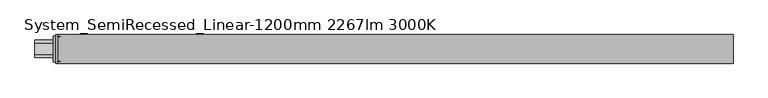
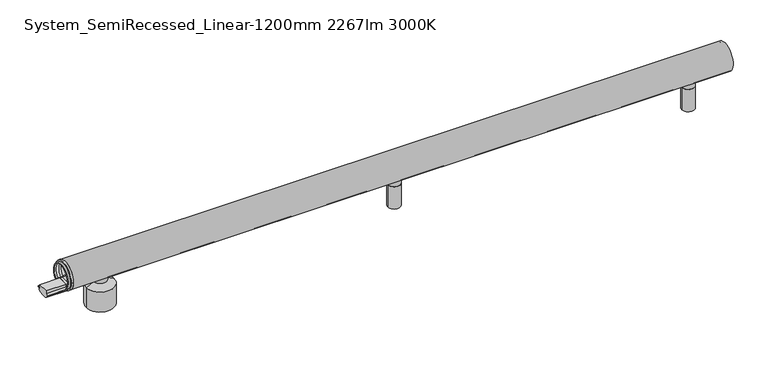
"""IFC4 building model written with IfcOpenShell, lengths in millimetres: light fixture geometry, ARTEMIDE-AoL-System-Linear_WallCeiling_US : System_SemiRecessed_Linear-1200mm 2267lm 3000K."""

from ifc_helpers import new_model, si_unit, point, frame, frame_2d, origin, place, context, project, spatial, polyline, circle_curve, trimmed, segment, composite_curve, outline, extrude, source, transform, mapped, element, save
from ifc_brep_helpers import plane_surface, cylinder_surface, revolved_surface, advanced_brep


def system_semirecessed_linear_1200mm_2267lm_3000k_a6b309f1(model_context):
    return source(origin(), model_context, "Body", "SolidModel", [
        advanced_brep(
        [(-2.0, 25.0245983, 74.9754017), (-2.0, -25.0245983, 74.9754017), (-2.0, -9.5062575, 60.6916114), (-2.0, -9.5062575, 64.3781516), (-2.0, 9.5062575, 64.3781516), (-2.0, 9.5062575, 60.6916114), (-2.0, 15.4273739, 60.6916114), (-2.0, 17.2867732, 60.6916114), (-2.0, -17.2867732, 60.6916114), (-2.0, -15.4273739, 60.6916114), (2.0, 25.0245983, 74.9754017), (2.0, -25.0245983, 74.9754017), (2.0, -9.5062575, 60.6916114), (2.0, -15.4273739, 60.6916114), (2.0, -17.2867732, 60.6916114), (2.0, 17.2867732, 60.6916114), (2.0, 15.4273739, 60.6916114), (2.0, 9.5062575, 60.6916114), (2.0, 9.5062575, 64.3781516), (2.0, -9.5062575, 64.3781516), (-6.0, -15.4273739, 60.6916114), (-6.0, -17.2867732, 60.6916114), (-6.0, 17.2867732, 60.6916114), (-6.0, 15.4273739, 60.6916114), (6.0, -15.4273739, 60.6916114), (6.0, 15.4273739, 60.6916114), (6.0, 17.2867732, 60.6916114), (6.0, -17.2867732, 60.6916114)],
        [
            (0, 1, circle_curve(frame((-2.0, 0.0, 74.9754017), z_axis=(-1.0, 0.0, 0.0), x_axis=(0.0, -1.0, 0.0)), 25.0245983)),
            (1, 0, circle_curve(frame((-2.0, 0.0, 74.9754017), z_axis=(-1.0, 0.0, 0.0), x_axis=(0.0, -1.0, 0.0)), 25.0245983)),
            (2, 3),
            (3, 4),
            (4, 5),
            (5, 6),
            (6, 7),
            (7, 8, circle_curve(frame((-2.0, 0.0, 74.9754017), z_axis=(1.0, 0.0, 0.0), x_axis=(0.0, -1.0, 0.0)), 22.4245221)),
            (8, 9),
            (9, 2),
            (10, 11, circle_curve(frame((2.0, 0.0, 74.9754017), z_axis=(1.0, 0.0, 0.0), x_axis=(0.0, -1.0, 0.0)), 25.0245983)),
            (11, 10, circle_curve(frame((2.0, 0.0, 74.9754017), z_axis=(1.0, 0.0, 0.0), x_axis=(0.0, -1.0, 0.0)), 25.0245983)),
            (12, 13),
            (13, 14),
            (14, 15, circle_curve(frame((2.0, 0.0, 74.9754017), z_axis=(-1.0, 0.0, 0.0), x_axis=(0.0, -1.0, 0.0)), 22.4245221)),
            (15, 16),
            (16, 17),
            (17, 18),
            (18, 19),
            (19, 12),
            (5, 17),
            (16, 6),
            (9, 13),
            (12, 2),
            (19, 3),
            (0, 10),
            (11, 1),
            (16, 13, circle_curve(frame((2.0, 0.0, 74.9754017), z_axis=(1.0, 0.0, 0.0), x_axis=(0.0, -1.0, 0.0)), 21.0245221)),
            (9, 6, circle_curve(frame((-2.0, 0.0, 74.9754017), z_axis=(-1.0, 0.0, 0.0), x_axis=(0.0, -1.0, 0.0)), 21.0245221)),
            (20, 21),
            (21, 22, circle_curve(frame((-6.0, 0.0, 74.9754017), z_axis=(-1.0, 0.0, 0.0), x_axis=(0.0, -1.0, 0.0)), 22.4245221)),
            (22, 23),
            (23, 20, circle_curve(frame((-6.0, 0.0, 74.9754017), z_axis=(1.0, 0.0, 0.0), x_axis=(0.0, -1.0, 0.0)), 21.0245221)),
            (24, 25, circle_curve(frame((6.0, 0.0, 74.9754017), z_axis=(-1.0, 0.0, 0.0), x_axis=(0.0, -1.0, 0.0)), 21.0245221)),
            (25, 26),
            (26, 27, circle_curve(frame((6.0, 0.0, 74.9754017), z_axis=(1.0, 0.0, 0.0), x_axis=(0.0, -1.0, 0.0)), 22.4245221)),
            (27, 24),
            (23, 6),
            (9, 20),
            (24, 13),
            (16, 25),
            (8, 21),
            (27, 14),
            (7, 22),
            (26, 15),
            (18, 4),
        ],
        [
            plane_surface(frame((-2.0, 0.0, 74.9754017), z_axis=(-1.0, 0.0, 0.0), x_axis=(0.0, 0.0, -1.0))),
            plane_surface(frame((2.0, 0.0, 74.9754017), z_axis=(1.0, 0.0, 0.0), x_axis=(0.0, 0.0, -1.0))),
            plane_surface(frame((-2.0, 9.5062575, 60.6916114), z_axis=(0.0, 0.0, 1.0), x_axis=(1.0, 0.0, 0.0))),
            plane_surface(frame((-2.0, -15.4273739, 60.6916114), z_axis=(0.0, 0.0, 1.0), x_axis=(1.0, 0.0, 0.0))),
            plane_surface(frame((-2.0, -9.5062575, 60.6916114), z_axis=(0.0, -1.0, 0.0), x_axis=(1.0, 0.0, 0.0))),
            cylinder_surface(frame((-2.0, 0.0, 74.9754017), z_axis=(-1.0, 0.0, 0.0), x_axis=(0.0, -1.0, 0.0)), 25.0245983),
            revolved_surface(polyline([(2.0, -21.0245221, 74.9754017), (-2.0, -21.0245221, 74.9754017)]), (-2.0, 0.0, 74.9754017), (1.0, 0.0, 0.0)),
            plane_surface(frame((-6.0, 0.0, 74.9754017), z_axis=(-1.0, 0.0, 0.0), x_axis=(0.0, 0.0, -1.0))),
            plane_surface(frame((6.0, 0.0, 74.9754017), z_axis=(1.0, 0.0, 0.0), x_axis=(0.0, 0.0, -1.0))),
            revolved_surface(polyline([(-2.0, -21.0245221, 74.9754017), (-6.0, -21.0245221, 74.9754017)]), (-6.0, 0.0, 74.9754017), (1.0, 0.0, 0.0)),
            revolved_surface(polyline([(6.0, -21.0245221, 74.9754017), (2.0, -21.0245221, 74.9754017)]), (-6.0, 0.0, 74.9754017), (1.0, 0.0, 0.0)),
            plane_surface(frame((-6.0, -15.4273739, 60.6916114), z_axis=(0.0, 0.0, -1.0), x_axis=(1.0, 0.0, 0.0))),
            cylinder_surface(frame((-6.0, 0.0, 74.9754017), z_axis=(-1.0, 0.0, 0.0), x_axis=(0.0, -1.0, 0.0)), 22.4245221),
            plane_surface(frame((-6.0, 17.2867732, 60.6916114), z_axis=(0.0, 0.0, -1.0), x_axis=(1.0, 0.0, 0.0))),
            plane_surface(frame((-2.0, -9.5062575, 64.3781516), z_axis=(0.0, 0.0, 1.0), x_axis=(1.0, 0.0, 0.0))),
            plane_surface(frame((-2.0, 9.5062575, 64.3781516), z_axis=(0.0, 1.0, 0.0), x_axis=(1.0, 0.0, 0.0))),
        ],
        [
            (0, [[1, 2], [3, 4, 5, 6, 7, 8, 9, 10]]),
            (1, [[11, 12], [13, 14, 15, 16, 17, 18, 19, 20]]),
            (2, [[-6, 21, -17, 22]]),
            (3, [[-10, 23, -13, 24]]),
            (4, [[-3, -24, -20, 25]]),
            (5, [[-1, 26, -12, 27]]),
            (6, [[-22, 28, -23, 29]]),
            (7, [[30, 31, 32, 33]]),
            (8, [[34, 35, 36, 37]]),
            (9, [[-33, 38, -29, 39]]),
            (10, [[-34, 40, -28, 41]]),
            (11, [[-30, -39, -9, 42]]),
            (11, [[-37, 43, -14, -40]]),
            (12, [[-31, -42, -8, 44]]),
            (12, [[-36, 45, -15, -43]]),
            (13, [[-32, -44, -7, -38]]),
            (13, [[-35, -41, -16, -45]]),
            (5, [[-2, -27, -11, -26]]),
            (14, [[-4, -25, -19, 46]]),
            (15, [[-5, -46, -18, -21]]),
        ],
    ),
        extrude(outline(composite_curve([segment(polyline([(-11.75, 57.2067494), (-15.304087, 57.2067494), (-15.304087, 58.7367744), (-9.5062575, 58.7367744), (-9.5062575, 64.3781516), (9.5062575, 64.3781516), (9.5062575, 58.7367744), (15.304087, 58.7367744), (15.304087, 57.2067494), (11.75, 57.2067494), (11.75, 52.880877)]), True, "CONTINUOUS"), segment(trimmed(circle_curve(frame_2d((0.0, 74.9754017)), 25.0245983), [point((11.75, 52.880877))], [point((-11.75, 52.880877))], False, "CARTESIAN"), True, "CONTINUOUS"), segment(polyline([(-11.75, 52.880877), (-11.75, 57.2067494)]), True, "CONTINUOUS")], self_intersect=False)), frame((2.0, 0.0, 0.0), z_axis=(1.0, 0.0, 0.0), x_axis=(0.0, 1.0, 0.0)), (0.0, 0.0, 1.0), 36.0),
        extrude(outline(composite_curve([segment(polyline([(-11.75, 57.2067494), (-15.304087, 57.2067494), (-15.304087, 58.7367744), (-9.5062575, 58.7367744), (-9.5062575, 64.3781516), (9.5062575, 64.3781516), (9.5062575, 58.7367744), (15.304087, 58.7367744), (15.304087, 57.2067494), (11.75, 57.2067494), (11.75, 52.880877)]), True, "CONTINUOUS"), segment(trimmed(circle_curve(frame_2d((0.0, 74.9754017)), 25.0245983), [point((11.75, 52.880877))], [point((-11.75, 52.880877))], False, "CARTESIAN"), True, "CONTINUOUS"), segment(polyline([(-11.75, 52.880877), (-11.75, 57.2067494)]), True, "CONTINUOUS")], self_intersect=False)), frame((-38.0, 0.0, 0.0), z_axis=(1.0, 0.0, 0.0), x_axis=(0.0, 1.0, 0.0)), (0.0, 0.0, 1.0), 36.0),
        advanced_brep(
        [(585.3054564, 0.0, 1.0), (594.6945436, 0.0, 1.0), (594.6945436, 0.0, 0.0), (585.3054564, 0.0, 0.0), (578.8054564, 0.0, 1.0), (601.1945436, 0.0, 1.0), (578.8054564, 0.0, 42.5), (601.1945436, 0.0, 42.5), (581.2810808, 0.0, 42.5), (598.7189192, 0.0, 42.5), (581.2810808, 0.0, 43.4995055), (598.7189192, 0.0, 43.4995055), (578.8054564, 0.0, 43.4995055), (601.1945436, 0.0, 43.4995055), (578.8054564, 0.0, 52.9333396), (601.1945436, 0.0, 52.9333396), (590.0, 0.0, 52.9333396), (590.0, 0.0, 0.0)],
        [
            (0, 1, circle_curve(frame((590.0, 0.0, 1.0), z_axis=(0.0, 0.0, -1.0), x_axis=(1.0, 0.0, 0.0)), 4.6945436)),
            (1, 2),
            (2, 3, circle_curve(frame((590.0, 0.0, 0.0), z_axis=(0.0, 0.0, 1.0), x_axis=(1.0, 0.0, 0.0)), 4.6945436)),
            (3, 0),
            (1, 0, circle_curve(frame((590.0, 0.0, 1.0), z_axis=(0.0, 0.0, -1.0), x_axis=(1.0, 0.0, 0.0)), 4.6945436)),
            (3, 2, circle_curve(frame((590.0, 0.0, 0.0), z_axis=(0.0, 0.0, 1.0), x_axis=(1.0, 0.0, 0.0)), 4.6945436)),
            (4, 5, circle_curve(frame((590.0, 0.0, 1.0), z_axis=(0.0, 0.0, -1.0), x_axis=(1.0, 0.0, 0.0)), 11.1945436)),
            (5, 1),
            (0, 4),
            (5, 4, circle_curve(frame((590.0, 0.0, 1.0), z_axis=(0.0, 0.0, -1.0), x_axis=(1.0, 0.0, 0.0)), 11.1945436)),
            (6, 7, circle_curve(frame((590.0, 0.0, 42.5), z_axis=(0.0, 0.0, -1.0), x_axis=(1.0, 0.0, 0.0)), 11.1945436)),
            (7, 5),
            (4, 6),
            (7, 6, circle_curve(frame((590.0, 0.0, 42.5), z_axis=(0.0, 0.0, -1.0), x_axis=(1.0, 0.0, 0.0)), 11.1945436)),
            (8, 9, circle_curve(frame((590.0, 0.0, 42.5), z_axis=(0.0, 0.0, -1.0), x_axis=(1.0, 0.0, 0.0)), 8.7189192)),
            (9, 7),
            (6, 8),
            (9, 8, circle_curve(frame((590.0, 0.0, 42.5), z_axis=(0.0, 0.0, -1.0), x_axis=(1.0, 0.0, 0.0)), 8.7189192)),
            (10, 11, circle_curve(frame((590.0, 0.0, 43.4995055), z_axis=(0.0, 0.0, -1.0), x_axis=(1.0, 0.0, 0.0)), 8.7189192)),
            (11, 9),
            (8, 10),
            (11, 10, circle_curve(frame((590.0, 0.0, 43.4995055), z_axis=(0.0, 0.0, -1.0), x_axis=(1.0, 0.0, 0.0)), 8.7189192)),
            (12, 13, circle_curve(frame((590.0, 0.0, 43.4995055), z_axis=(0.0, 0.0, -1.0), x_axis=(1.0, 0.0, 0.0)), 11.1945436)),
            (13, 11),
            (10, 12),
            (13, 12, circle_curve(frame((590.0, 0.0, 43.4995055), z_axis=(0.0, 0.0, -1.0), x_axis=(1.0, 0.0, 0.0)), 11.1945436)),
            (14, 15, circle_curve(frame((590.0, 0.0, 52.9333396), z_axis=(0.0, 0.0, -1.0), x_axis=(1.0, 0.0, 0.0)), 11.1945436)),
            (15, 13),
            (12, 14),
            (15, 14, circle_curve(frame((590.0, 0.0, 52.9333396), z_axis=(0.0, 0.0, -1.0), x_axis=(1.0, 0.0, 0.0)), 11.1945436)),
            (16, 15),
            (14, 16),
            (2, 17),
            (17, 3),
        ],
        [
            cylinder_surface(frame((590.0, 0.0, -58.83358), z_axis=(0.0, 0.0, 1.0), x_axis=(1.0, 0.0, 0.0)), 4.6945436),
            plane_surface(frame((590.0, 0.0, 1.0), z_axis=(0.0, 0.0, -1.0), x_axis=(1.0, 0.0, 0.0))),
            cylinder_surface(frame((590.0, 0.0, -58.83358), z_axis=(0.0, 0.0, 1.0), x_axis=(1.0, 0.0, 0.0)), 11.1945436),
            plane_surface(frame((590.0, 0.0, 42.5), z_axis=(0.0, 0.0, 1.0), x_axis=(1.0, 0.0, 0.0))),
            cylinder_surface(frame((590.0, 0.0, -58.83358), z_axis=(0.0, 0.0, 1.0), x_axis=(1.0, 0.0, 0.0)), 8.7189192),
            plane_surface(frame((590.0, 0.0, 43.4995055), z_axis=(0.0, 0.0, -1.0), x_axis=(1.0, 0.0, 0.0))),
            plane_surface(frame((590.0, 0.0, 52.9333396), z_axis=(0.0, 0.0, 1.0), x_axis=(1.0, 0.0, 0.0))),
            plane_surface(frame((590.0, 0.0, 0.0), z_axis=(0.0, 0.0, -1.0), x_axis=(1.0, 0.0, 0.0))),
        ],
        [
            (0, [[1, 2, 3, 4]]),
            (0, [[5, -4, 6, -2]]),
            (1, [[7, 8, -1, 9]]),
            (1, [[10, -9, -5, -8]]),
            (2, [[11, 12, -7, 13]]),
            (2, [[14, -13, -10, -12]]),
            (3, [[15, 16, -11, 17]]),
            (3, [[18, -17, -14, -16]]),
            (4, [[19, 20, -15, 21]]),
            (4, [[22, -21, -18, -20]]),
            (5, [[23, 24, -19, 25]]),
            (5, [[26, -25, -22, -24]]),
            (2, [[27, 28, -23, 29]]),
            (2, [[30, -29, -26, -28]]),
            (6, [[31, -27, 32]]),
            (6, [[-32, -30, -31]]),
            (7, [[-3, 33, 34]]),
            (7, [[-6, -34, -33]]),
        ],
    ),
        advanced_brep(
        [(64.0, 0.0, 54.0), (76.0, 0.0, 54.0), (52.0, 0.0, 54.0), (39.0, 0.0, 0.0), (89.0, 0.0, 0.0), (64.0, 0.0, 0.0), (39.0, 0.0, 37.5120373), (89.0, 0.0, 37.5120373), (52.0, 0.0, 44.4453706), (76.0, 0.0, 44.4453706)],
        [
            (0, 1),
            (1, 2, circle_curve(frame((64.0, 0.0, 54.0), z_axis=(0.0, 0.0, 1.0), x_axis=(1.0, 0.0, 0.0)), 12.0)),
            (2, 0),
            (2, 1, circle_curve(frame((64.0, 0.0, 54.0), z_axis=(0.0, 0.0, 1.0), x_axis=(1.0, 0.0, 0.0)), 12.0)),
            (3, 4, circle_curve(frame((64.0, 0.0, 0.0), z_axis=(0.0, 0.0, -1.0), x_axis=(1.0, 0.0, 0.0)), 25.0)),
            (4, 5),
            (5, 3),
            (4, 3, circle_curve(frame((64.0, 0.0, 0.0), z_axis=(0.0, 0.0, -1.0), x_axis=(1.0, 0.0, 0.0)), 25.0)),
            (6, 7, circle_curve(frame((64.0, 0.0, 37.5120373), z_axis=(0.0, 0.0, -1.0), x_axis=(1.0, 0.0, 0.0)), 25.0)),
            (7, 4),
            (3, 6),
            (7, 6, circle_curve(frame((64.0, 0.0, 37.5120373), z_axis=(0.0, 0.0, -1.0), x_axis=(1.0, 0.0, 0.0)), 25.0)),
            (8, 9, circle_curve(frame((64.0, 0.0, 44.4453706), z_axis=(0.0, 0.0, -1.0), x_axis=(1.0, 0.0, 0.0)), 12.0)),
            (9, 7),
            (6, 8),
            (9, 8, circle_curve(frame((64.0, 0.0, 44.4453706), z_axis=(0.0, 0.0, -1.0), x_axis=(1.0, 0.0, 0.0)), 12.0)),
            (1, 9),
            (8, 2),
        ],
        [
            plane_surface(frame((64.0, 0.0, 54.0), z_axis=(0.0, 0.0, 1.0), x_axis=(1.0, 0.0, 0.0))),
            plane_surface(frame((64.0, 0.0, 0.0), z_axis=(0.0, 0.0, -1.0), x_axis=(1.0, 0.0, 0.0))),
            cylinder_surface(frame((64.0, 0.0, -58.83358), z_axis=(0.0, 0.0, 1.0), x_axis=(1.0, 0.0, 0.0)), 25.0),
            revolved_surface(polyline([(89.0, 0.0, 37.5120373), (76.0, 0.0, 44.4453706)]), (64.0, 0.0, -58.83358), (0.0, 0.0, 1.0)),
            cylinder_surface(frame((64.0, 0.0, -58.83358), z_axis=(0.0, 0.0, 1.0), x_axis=(1.0, 0.0, 0.0)), 12.0),
        ],
        [
            (0, [[1, 2, 3]]),
            (0, [[-3, 4, -1]]),
            (1, [[5, 6, 7]]),
            (1, [[8, -7, -6]]),
            (2, [[9, 10, -5, 11]]),
            (2, [[12, -11, -8, -10]]),
            (3, [[13, 14, -9, 15]]),
            (3, [[16, -15, -12, -14]]),
            (4, [[-2, 17, -13, 18]]),
            (4, [[-4, -18, -16, -17]]),
        ],
    ),
        advanced_brep(
        [(1111.3054564, 0.0, 1.0), (1120.6945436, 0.0, 1.0), (1120.6945436, 0.0, 0.0), (1111.3054564, 0.0, 0.0), (1104.8054564, 0.0, 1.0), (1127.1945436, 0.0, 1.0), (1104.8054564, 0.0, 42.5), (1127.1945436, 0.0, 42.5), (1107.2810808, 0.0, 42.5), (1124.7189192, 0.0, 42.5), (1107.2810808, 0.0, 43.4995055), (1124.7189192, 0.0, 43.4995055), (1104.8054564, 0.0, 43.4995055), (1127.1945436, 0.0, 43.4995055), (1104.8054564, 0.0, 52.9333396), (1127.1945436, 0.0, 52.9333396), (1116.0, 0.0, 52.9333396), (1116.0, 0.0, 0.0)],
        [
            (0, 1, circle_curve(frame((1116.0, 0.0, 1.0), z_axis=(0.0, 0.0, -1.0), x_axis=(1.0, 0.0, 0.0)), 4.6945436)),
            (1, 2),
            (2, 3, circle_curve(frame((1116.0, 0.0, 0.0), z_axis=(0.0, 0.0, 1.0), x_axis=(1.0, 0.0, 0.0)), 4.6945436)),
            (3, 0),
            (1, 0, circle_curve(frame((1116.0, 0.0, 1.0), z_axis=(0.0, 0.0, -1.0), x_axis=(1.0, 0.0, 0.0)), 4.6945436)),
            (3, 2, circle_curve(frame((1116.0, 0.0, 0.0), z_axis=(0.0, 0.0, 1.0), x_axis=(1.0, 0.0, 0.0)), 4.6945436)),
            (4, 5, circle_curve(frame((1116.0, 0.0, 1.0), z_axis=(0.0, 0.0, -1.0), x_axis=(1.0, 0.0, 0.0)), 11.1945436)),
            (5, 1),
            (0, 4),
            (5, 4, circle_curve(frame((1116.0, 0.0, 1.0), z_axis=(0.0, 0.0, -1.0), x_axis=(1.0, 0.0, 0.0)), 11.1945436)),
            (6, 7, circle_curve(frame((1116.0, 0.0, 42.5), z_axis=(0.0, 0.0, -1.0), x_axis=(1.0, 0.0, 0.0)), 11.1945436)),
            (7, 5),
            (4, 6),
            (7, 6, circle_curve(frame((1116.0, 0.0, 42.5), z_axis=(0.0, 0.0, -1.0), x_axis=(1.0, 0.0, 0.0)), 11.1945436)),
            (8, 9, circle_curve(frame((1116.0, 0.0, 42.5), z_axis=(0.0, 0.0, -1.0), x_axis=(1.0, 0.0, 0.0)), 8.7189192)),
            (9, 7),
            (6, 8),
            (9, 8, circle_curve(frame((1116.0, 0.0, 42.5), z_axis=(0.0, 0.0, -1.0), x_axis=(1.0, 0.0, 0.0)), 8.7189192)),
            (10, 11, circle_curve(frame((1116.0, 0.0, 43.4995055), z_axis=(0.0, 0.0, -1.0), x_axis=(1.0, 0.0, 0.0)), 8.7189192)),
            (11, 9),
            (8, 10),
            (11, 10, circle_curve(frame((1116.0, 0.0, 43.4995055), z_axis=(0.0, 0.0, -1.0), x_axis=(1.0, 0.0, 0.0)), 8.7189192)),
            (12, 13, circle_curve(frame((1116.0, 0.0, 43.4995055), z_axis=(0.0, 0.0, -1.0), x_axis=(1.0, 0.0, 0.0)), 11.1945436)),
            (13, 11),
            (10, 12),
            (13, 12, circle_curve(frame((1116.0, 0.0, 43.4995055), z_axis=(0.0, 0.0, -1.0), x_axis=(1.0, 0.0, 0.0)), 11.1945436)),
            (14, 15, circle_curve(frame((1116.0, 0.0, 52.9333396), z_axis=(0.0, 0.0, -1.0), x_axis=(1.0, 0.0, 0.0)), 11.1945436)),
            (15, 13),
            (12, 14),
            (15, 14, circle_curve(frame((1116.0, 0.0, 52.9333396), z_axis=(0.0, 0.0, -1.0), x_axis=(1.0, 0.0, 0.0)), 11.1945436)),
            (16, 15),
            (14, 16),
            (2, 17),
            (17, 3),
        ],
        [
            cylinder_surface(frame((1116.0, 0.0, -58.83358), z_axis=(0.0, 0.0, 1.0), x_axis=(1.0, 0.0, 0.0)), 4.6945436),
            plane_surface(frame((1116.0, 0.0, 1.0), z_axis=(0.0, 0.0, -1.0), x_axis=(1.0, 0.0, 0.0))),
            cylinder_surface(frame((1116.0, 0.0, -58.83358), z_axis=(0.0, 0.0, 1.0), x_axis=(1.0, 0.0, 0.0)), 11.1945436),
            plane_surface(frame((1116.0, 0.0, 42.5), z_axis=(0.0, 0.0, 1.0), x_axis=(1.0, 0.0, 0.0))),
            cylinder_surface(frame((1116.0, 0.0, -58.83358), z_axis=(0.0, 0.0, 1.0), x_axis=(1.0, 0.0, 0.0)), 8.7189192),
            plane_surface(frame((1116.0, 0.0, 43.4995055), z_axis=(0.0, 0.0, -1.0), x_axis=(1.0, 0.0, 0.0))),
            plane_surface(frame((1116.0, 0.0, 52.9333396), z_axis=(0.0, 0.0, 1.0), x_axis=(1.0, 0.0, 0.0))),
            plane_surface(frame((1116.0, 0.0, 0.0), z_axis=(0.0, 0.0, -1.0), x_axis=(1.0, 0.0, 0.0))),
        ],
        [
            (0, [[1, 2, 3, 4]]),
            (0, [[5, -4, 6, -2]]),
            (1, [[7, 8, -1, 9]]),
            (1, [[10, -9, -5, -8]]),
            (2, [[11, 12, -7, 13]]),
            (2, [[14, -13, -10, -12]]),
            (3, [[15, 16, -11, 17]]),
            (3, [[18, -17, -14, -16]]),
            (4, [[19, 20, -15, 21]]),
            (4, [[22, -21, -18, -20]]),
            (5, [[23, 24, -19, 25]]),
            (5, [[26, -25, -22, -24]]),
            (2, [[27, 28, -23, 29]]),
            (2, [[30, -29, -26, -28]]),
            (6, [[31, -27, 32]]),
            (6, [[-32, -30, -31]]),
            (7, [[-3, 33, 34]]),
            (7, [[-6, -34, -33]]),
        ],
    ),
        extrude(outline(composite_curve([segment(trimmed(circle_curve(frame_2d((0.0, 75.0)), 25.0), [point((-11.75, 52.9333396))], [point((11.75, 52.9333396))], False, "CARTESIAN"), True, "CONTINUOUS"), segment(polyline([(11.75, 52.9333396), (11.75, 57.259212), (13.667754, 57.259212), (13.667754, 55.8288843), (15.617754, 57.2440748), (15.617754, 59.244074), (12.667754, 59.244074), (12.667754, 60.744074), (17.2779794, 60.744074)]), True, "CONTINUOUS"), segment(trimmed(circle_curve(frame_2d((0.0, 75.0)), 22.4), [point((17.2779794, 60.744074))], [point((-17.2779794, 60.744074))], True, "CARTESIAN"), True, "CONTINUOUS"), segment(polyline([(-17.2779794, 60.744074), (-12.667754, 60.744074), (-12.667754, 59.244074), (-15.617754, 59.244074), (-15.617754, 57.2440748), (-13.667754, 55.8288843), (-13.667754, 57.259212), (-11.75, 57.259212), (-11.75, 52.9333396)]), True, "CONTINUOUS")], self_intersect=False)), frame((2.0, 0.0, 0.0), z_axis=(1.0, 0.0, 0.0), x_axis=(0.0, 1.0, 0.0)), (0.0, 0.0, 1.0), 1180.0),
        extrude(outline(composite_curve([segment(trimmed(circle_curve(frame_2d((0.0, 75.0)), 25.0), [point((11.75, 52.9333396))], [point((-11.75, 52.9333396))], False, "CARTESIAN"), True, "CONTINUOUS"), segment(polyline([(-11.75, 52.9333396), (-11.75, 57.259212), (-15.304087, 57.259212), (-15.304087, 58.785971), (-9.5062575, 58.785971), (-9.5062575, 64.4273482), (9.5062575, 64.4273482), (9.5062575, 58.785971), (15.304087, 58.785971), (15.304087, 57.259212), (11.75, 57.259212), (11.75, 52.9333396)]), True, "CONTINUOUS")], self_intersect=False)), frame((38.0, 0.0, 0.0), z_axis=(1.0, 0.0, 0.0), x_axis=(0.0, 1.0, 0.0)), (0.0, 0.0, 1.0), 1144.0),
    ])


if __name__ == "__main__":
    model = new_model("IFC4")
    model_context = context("Model", 3, world=origin())
    ifc_project = project(units=[si_unit("LENGTHUNIT", "METRE", prefix="MILLI")], contexts=[model_context])
    site = spatial("IfcSite", under=ifc_project)
    building = spatial("IfcBuilding", under=site)
    placement = place(None, origin())
    system_semirecessed_linear_1200mm_2267lm_3000k_shape = system_semirecessed_linear_1200mm_2267lm_3000k_a6b309f1(model_context)
    element("IfcLightFixture", 1, ObjectType="ARTEMIDE-AoL-System-Linear_WallCeiling_US : System_SemiRecessed_Linear-1200mm 2267lm 3000K", at=placement, inside=building, context=model_context, shape_type="MappedRepresentation", body=[
        mapped(system_semirecessed_linear_1200mm_2267lm_3000k_shape, transform((0.0, 0.0, 0.0), x_axis=(1.0, 0.0, 0.0), y_axis=(0.0, 1.0, 0.0), z_axis=(0.0, 0.0, 1.0))),
    ])
    save(model, "model.ifc")
